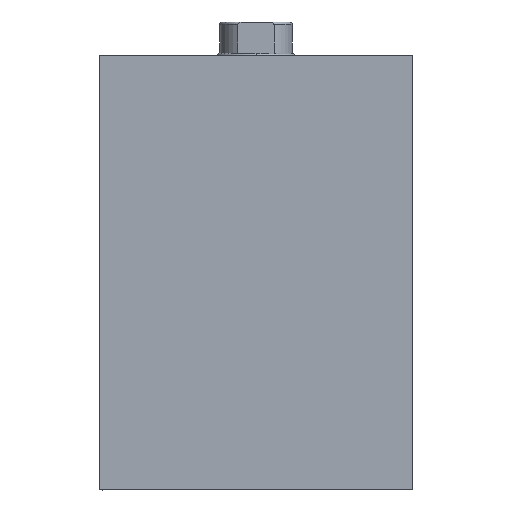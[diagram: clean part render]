
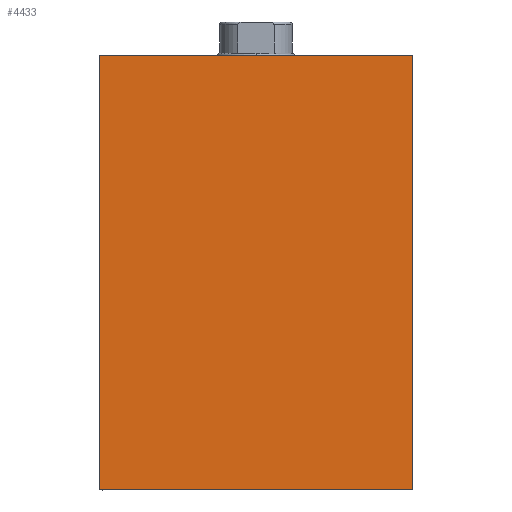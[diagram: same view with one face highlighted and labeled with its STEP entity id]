
A CAD part, left-side view. The second image highlights one B-rep face of the part: STEP entity #4433.
In plain terms, the highlighted planar face has unit normal (-1, 0, 0) as drawn and (0, 0, -1) by its records, which use the part's own axes.
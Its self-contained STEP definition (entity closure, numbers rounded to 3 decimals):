
#69 = PLANE ( 'NONE',  #1179 ) ;
#74 = CARTESIAN_POINT ( 'NONE',  ( 90., -32.5, -22.5 ) ) ;
#223 = CARTESIAN_POINT ( 'NONE',  ( 0., -32.5, -22.5 ) ) ;
#369 = CARTESIAN_POINT ( 'NONE',  ( 90., 32.5, -22.5 ) ) ;
#467 = VERTEX_POINT ( 'NONE', #1064 ) ;
#525 = EDGE_CURVE ( 'NONE', #2008, #2460, #1108, .T. ) ;
#735 = LINE ( 'NONE', #1044, #2750 ) ;
#940 = VECTOR ( 'NONE', #3079, 1000. ) ;
#1044 = CARTESIAN_POINT ( 'NONE',  ( 0., -32.5, -22.5 ) ) ;
#1064 = CARTESIAN_POINT ( 'NONE',  ( 0., 32.5, -22.5 ) ) ;
#1108 = B_SPLINE_CURVE_WITH_KNOTS ( 'NONE', 1,
 ( #2797, #223 ),
 .UNSPECIFIED., .F., .F.,
 ( 2, 2 ),
 ( 0., 1. ),
 .UNSPECIFIED. ) ;
#1179 = AXIS2_PLACEMENT_3D ( 'NONE', #4427, #2305, #5254 ) ;
#1598 = ORIENTED_EDGE ( 'NONE', *, *, #2435, .T. ) ;
#2008 = VERTEX_POINT ( 'NONE', #4041 ) ;
#2305 = DIRECTION ( 'NONE',  ( 0., 0., 1. ) ) ;
#2358 = ORIENTED_EDGE ( 'NONE', *, *, #525, .T. ) ;
#2435 = EDGE_CURVE ( 'NONE', #2460, #467, #735, .T. ) ;
#2460 = VERTEX_POINT ( 'NONE', #3607 ) ;
#2472 = VERTEX_POINT ( 'NONE', #369 ) ;
#2491 = ORIENTED_EDGE ( 'NONE', *, *, #3681, .F. ) ;
#2750 = VECTOR ( 'NONE', #3183, 1000. ) ;
#2797 = CARTESIAN_POINT ( 'NONE',  ( 90., -32.5, -22.5 ) ) ;
#2878 = FACE_OUTER_BOUND ( 'NONE', #3657, .T. ) ;
#2899 = CARTESIAN_POINT ( 'NONE',  ( 90., 32.5, -22.5 ) ) ;
#3079 = DIRECTION ( 'NONE',  ( 0., 1., 0. ) ) ;
#3183 = DIRECTION ( 'NONE',  ( 0., 1., 0. ) ) ;
#3607 = CARTESIAN_POINT ( 'NONE',  ( 0., -32.5, -22.5 ) ) ;
#3657 = EDGE_LOOP ( 'NONE', ( #1598, #2491, #4079, #2358 ) ) ;
#3681 = EDGE_CURVE ( 'NONE', #2472, #467, #5520, .T. ) ;
#3764 = CARTESIAN_POINT ( 'NONE',  ( 0., 32.5, -22.5 ) ) ;
#3897 = EDGE_CURVE ( 'NONE', #2008, #2472, #5324, .T. ) ;
#4041 = CARTESIAN_POINT ( 'NONE',  ( 90., -32.5, -22.5 ) ) ;
#4079 = ORIENTED_EDGE ( 'NONE', *, *, #3897, .F. ) ;
#4427 = CARTESIAN_POINT ( 'NONE',  ( 90., -32.5, -22.5 ) ) ;
#4433 = ADVANCED_FACE ( 'NONE', ( #2878 ), #69, .F. ) ;
#5254 = DIRECTION ( 'NONE',  ( 1., 0., 0. ) ) ;
#5324 = LINE ( 'NONE', #74, #940 ) ;
#5520 = B_SPLINE_CURVE_WITH_KNOTS ( 'NONE', 1,
 ( #2899, #3764 ),
 .UNSPECIFIED., .F., .F.,
 ( 2, 2 ),
 ( 0., 1. ),
 .UNSPECIFIED. ) ;
